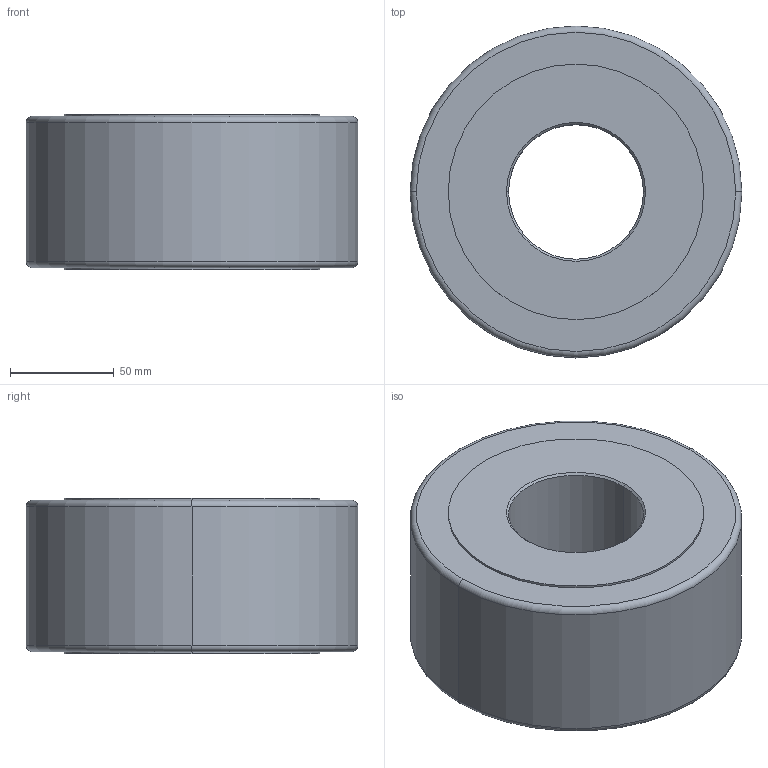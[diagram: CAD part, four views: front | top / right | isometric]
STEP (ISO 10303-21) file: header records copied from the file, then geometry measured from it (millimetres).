
FILE_DESCRIPTION (( 'STEP AP214' ), '1' );
FILE_NAME ('3DRSU55-160.STEP', '2013-12-19T09:36:06', ( 'usuario' ), ( 'Hewlett-Packard Company' ), 'SwSTEP 2.0', 'SolidWorks 2017', '' );
FILE_SCHEMA (( 'AUTOMOTIVE_DESIGN' ));
Length unit declared in the file: millimetre
Products named in the file (1): 3DRSU55-160
Bounding box: 160 x 160 x 75 mm (x, y, z)
Volume: 1240604.5 mm3; surface area: 84820.1 mm2
Topology: 1 solids, 1 shells, 20 faces, 40 edges, 24 vertices
Faces by surface type: cylinder 8, cone 4, torus 4, plane 4
Entity records: 566 total; most frequent: DIRECTION 110, CARTESIAN_POINT 85, ORIENTED_EDGE 80, AXIS2_PLACEMENT_3D 49, EDGE_CURVE 40, CIRCLE 28, EDGE_LOOP 24, VERTEX_POINT 24
